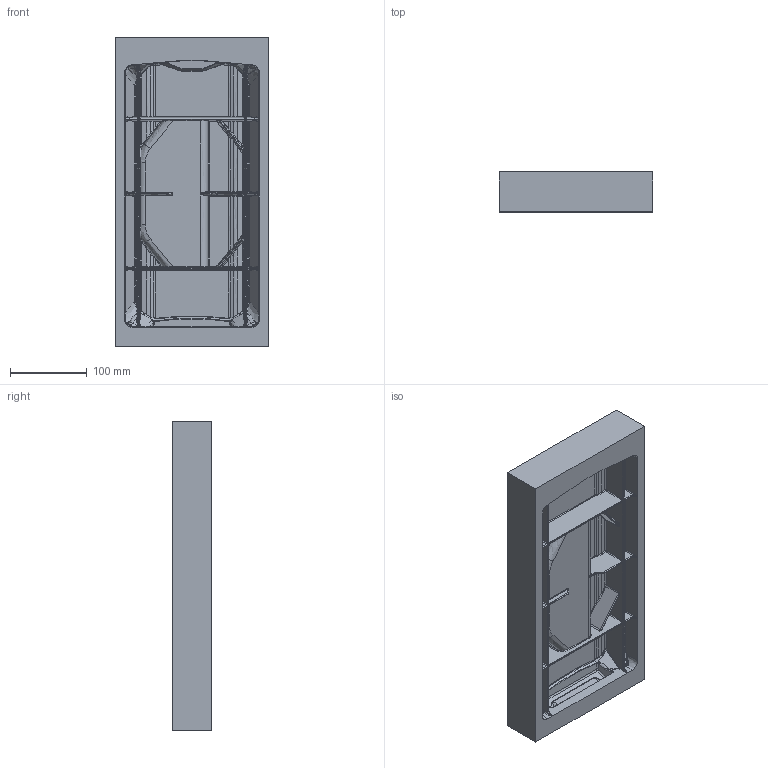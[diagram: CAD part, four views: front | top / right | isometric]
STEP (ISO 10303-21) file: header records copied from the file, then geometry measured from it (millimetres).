
FILE_DESCRIPTION (( 'STEP AP214' ), '1' );
FILE_NAME ('V250 PP TOP TUB 2-5-2024.STEP', '2024-02-18T23:02:56', ( '' ), ( '' ), 'SwSTEP 2.0', 'SolidWorks 2021', '' );
FILE_SCHEMA (( 'AUTOMOTIVE_DESIGN' ));
Length unit declared in the file: millimetre
Products named in the file (1): V250 PP TOP TUB 2-5-2024
Bounding box: 199.84 x 51.85 x 403.47 mm (x, y, z)
Volume: 2379872.9 mm3; surface area: 326421.7 mm2
Topology: 1 solids, 1 shells, 1003 faces, 2379 edges, 1267 vertices
Faces by surface type: bspline 885, plane 118
Entity records: 40664 total; most frequent: CARTESIAN_POINT 26133, ORIENTED_EDGE 4532, EDGE_CURVE 2266, VERTEX_POINT 1267, EDGE_LOOP 1005, FACE_OUTER_BOUND 1003, ADVANCED_FACE 1003, B_SPLINE_CURVE_WITH_KNOTS 953
